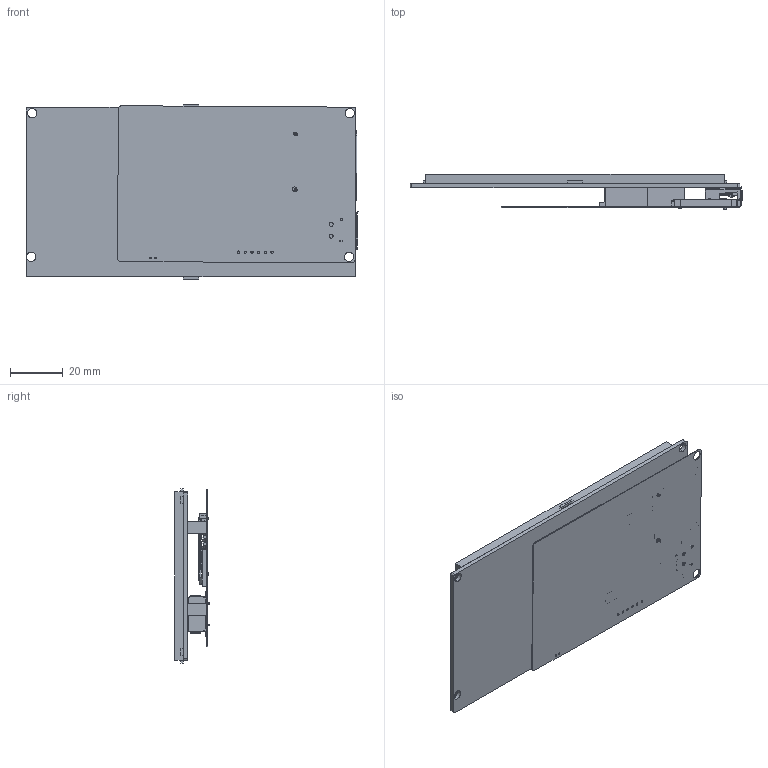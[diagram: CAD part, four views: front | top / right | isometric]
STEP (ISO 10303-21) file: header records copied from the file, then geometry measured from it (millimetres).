
FILE_DESCRIPTION (( 'STEP AP214' ), '1' );
FILE_NAME ('TFT46all.STEP', '2017-06-11T08:10:02', ( '' ), ( '' ), 'SwSTEP 2.0', 'SolidWorks 2016', '' );
FILE_SCHEMA (( 'AUTOMOTIVE_DESIGN' ));
Length unit declared in the file: millimetre
Products named in the file (12): Screen207V1; U3; 脣釱; Extruded_1; TFT46all; U13; 487667936; USBA_1; TFT4.6; sd_big_1; U_DISK; Board_1
Assembly tree (11 placements, depth 5):
  TFT46all
    TFT4.6
    Screen207V1
      Board_1
      U13
        sd_big_1
      U_DISK
        USBA_1
      U3
        487667936
          Extruded_1
      脣釱
Bounding box: 125.78 x 13.25 x 66 mm (x, y, z)
Volume: 41848.1 mm3; surface area: 34304.9 mm2
Topology: 11 solids, 11 shells, 939 faces, 2627 edges, 1734 vertices
Faces by surface type: plane 779, cylinder 156, bspline 4
Entity records: 37426 total; most frequent: CARTESIAN_POINT 5427, ORIENTED_EDGE 5254, DIRECTION 4836, EDGE_CURVE 2627, LINE 2294, VECTOR 2294, VERTEX_POINT 1734, AXIS2_PLACEMENT_3D 1271
